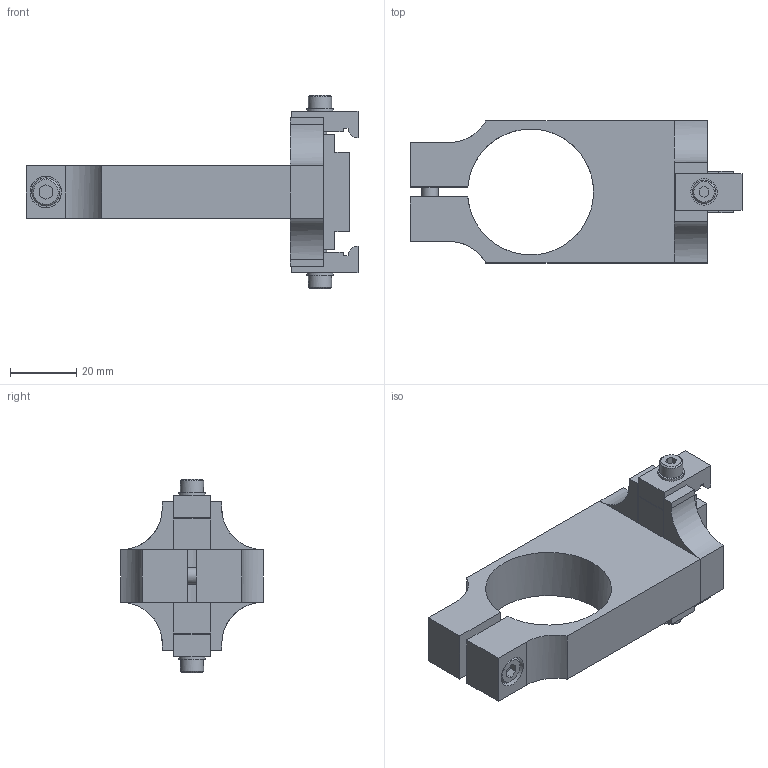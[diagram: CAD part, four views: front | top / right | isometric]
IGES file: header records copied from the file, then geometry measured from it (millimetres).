
Global section: file name: C30-PSH-38; native system: Autodesk Inventor 2018; preprocessor: unknown; author: ka.nakajima; date: 20190529.094938; units: millimetre
Bounding box: 100.5 x 43 x 58.49 mm (x, y, z)
Volume: 49085.4 mm3; surface area: 18203.3 mm2
Topology: 1 solids, 1 shells, 192 faces, 489 edges, 316 vertices
Faces by surface type: bspline 192
